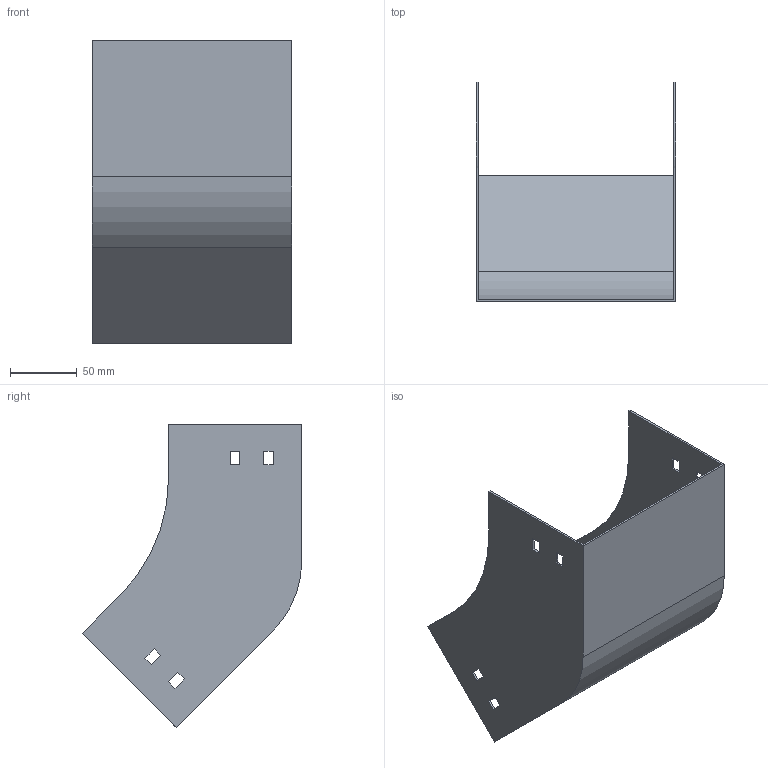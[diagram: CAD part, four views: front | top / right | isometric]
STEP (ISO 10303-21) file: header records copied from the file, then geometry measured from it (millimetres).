
FILE_DESCRIPTION (( 'STEP AP214' ), '1' );
FILE_NAME ('S4_151.step', '2025-07-16T09:26:21', ( '' ), ( '' ), 'SwSTEP 2.0', 'SolidWorks 2023', '' );
FILE_SCHEMA (( 'AUTOMOTIVE_DESIGN' ));
Length unit declared in the file: millimetre
Products named in the file (1): S4_151
Bounding box: 150 x 164.9 x 227.38 mm (x, y, z)
Volume: 125196.7 mm3; surface area: 168914.3 mm2
Topology: 1 solids, 1 shells, 50 faces, 144 edges, 96 vertices
Faces by surface type: plane 46, cylinder 4
Entity records: 1671 total; most frequent: CARTESIAN_POINT 291, ORIENTED_EDGE 288, DIRECTION 254, EDGE_CURVE 144, VECTOR 136, LINE 136, VERTEX_POINT 96, EDGE_LOOP 66
